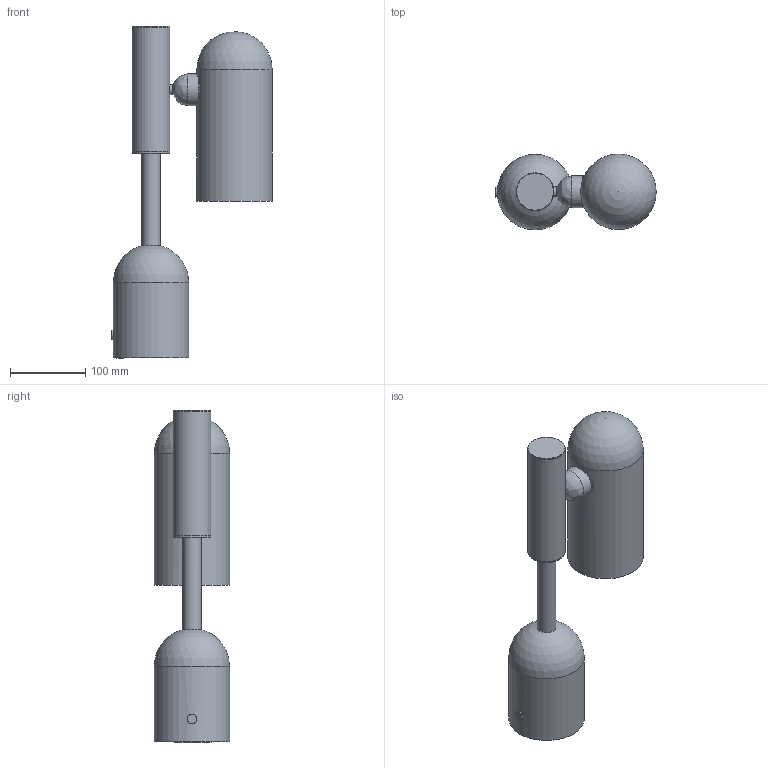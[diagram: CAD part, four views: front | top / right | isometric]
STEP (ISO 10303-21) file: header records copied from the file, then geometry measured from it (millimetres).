
FILE_DESCRIPTION(/* description */ (''),/* implementation_level */ '2;1');
FILE_NAME(/* name */ 'T:\B148 Odyssey Table Lamp\Pliki bryłowe handlowe\B148 Odyssey 1 3D files\B148 Odyssey 1.stp',/* time_stamp */ '2022-01-24T14:11:00+01:00',/* author */ ('Mariusz Awariusz'),/* organization */ (''),/* preprocessor_version */ 'ST-DEVELOPER v18.1',/* originating_system */ 'Autodesk Inventor 2022',/* authorisation */ '');
FILE_SCHEMA (('AUTOMOTIVE_DESIGN { 1 0 10303 214 3 1 1 }'));
Length unit declared in the file: millimetre
Products named in the file (1): B148 Odyssey nocna CE V9_na potrzeby plików 3D_jako część
Bounding box: 212.55 x 100 x 440.16 mm (x, y, z)
Volume: 2311945.9 mm3; surface area: 222845.1 mm2
Topology: 1 solids, 4 shells, 48 faces, 101 edges, 63 vertices
Faces by surface type: cylinder 21, plane 16, bspline 6, sphere 3, cone 2
Full cylindrical faces by diameter (mm): 10 x1, 10.2 x1, 13 x2, 25 x1, 42 x1, 50 x3, 90 x1, 92 x1, 100 x2
Entity records: 2636 total; most frequent: CARTESIAN_POINT 1599, DIRECTION 206, ORIENTED_EDGE 200, EDGE_CURVE 100, AXIS2_PLACEMENT_3D 88, VERTEX_POINT 63, EDGE_LOOP 53, FACE_OUTER_BOUND 48
